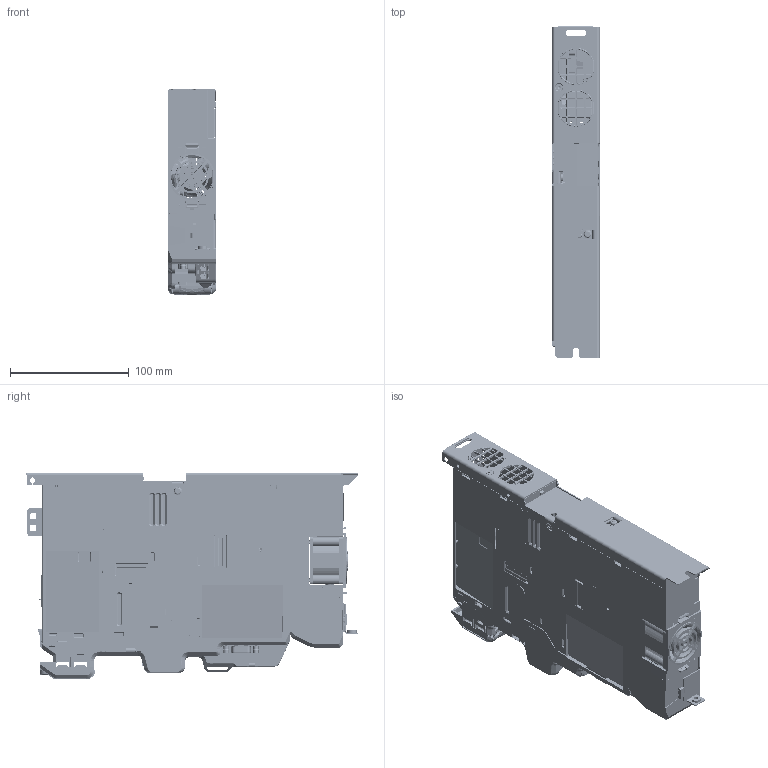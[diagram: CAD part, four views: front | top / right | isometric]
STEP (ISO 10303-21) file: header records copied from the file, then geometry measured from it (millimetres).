
FILE_DESCRIPTION((''),'2;1');
FILE_NAME('RR_FR02_WO_ACC','2017-09-07T',('spatil4'),(''),'PRO/ENGINEER BY PARAMETRIC TECHNOLOGY CORPORATION, 2011490','PRO/ENGINEER BY PARAMETRIC TECHNOLOGY CORPORATION, 2011490','');
FILE_SCHEMA(('STRUCTURAL_ANALYSIS_DESIGN'));
Products named in the file (1): RR_FR02_WO_ACC
Bounding box: 40.15 x 279 x 174.03 mm (x, y, z)
Surface area: 492638.5 mm2 (no closed solid volume)
Topology: 0 solids, 601 shells, 6664 faces, 32734 edges, 25633 vertices
Faces by surface type: plane 4302, cylinder 1519, cone 376, bspline 327, torus 114, sphere 21, extrusion 5
Entity records: 359306 total; most frequent: CARTESIAN_POINT 120279, ORIENTED_EDGE 43807, DIRECTION 43447, EDGE_CURVE 32726, VERTEX_POINT 25632, VECTOR 21993, LINE 21988, AXIS2_PLACEMENT_3D 10727
